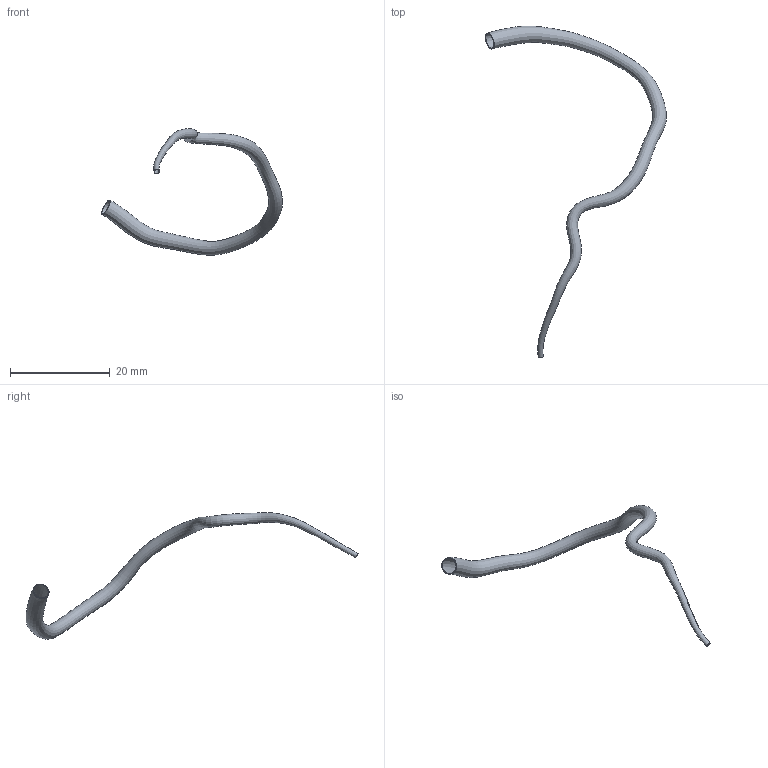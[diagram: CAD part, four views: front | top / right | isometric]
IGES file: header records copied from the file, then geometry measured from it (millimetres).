
Global section: file name: C:\Documents and Settings\Administrator\Desktop\FDA-Pig\Domestic RCA\Pig_000137\rca.seg.es.igs; native system: Rhinoceros ( May 19 2006 ); preprocessor: Trout Lake IGES 012 May 19 2006; date: 111205.185820; units: centimetre
Bounding box: 36.28 x 66.52 x 25.32 mm (x, y, z)
Surface area: 1636.8 mm2 (no closed solid volume)
Topology: 0 solids, 0 shells, 4 faces, 13 edges, 10 vertices
Faces by surface type: bspline 4
